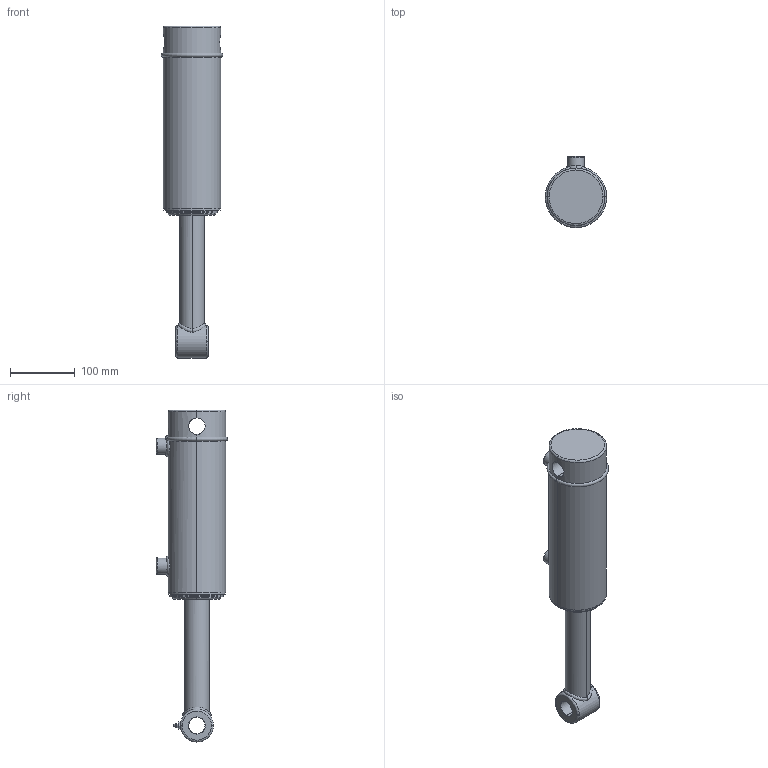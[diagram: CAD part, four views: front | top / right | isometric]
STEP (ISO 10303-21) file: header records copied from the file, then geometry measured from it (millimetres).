
FILE_DESCRIPTION (( 'STEP AP203' ), '1' );
FILE_NAME ('SB-C3001550x152 (6) extended.STEP', '2014-11-19T03:19:24', ( '' ), ( '' ), 'SwSTEP 2.0', 'SolidWorks 2014', '' );
FILE_SCHEMA (( 'CONFIG_CONTROL_DESIGN' ));
Length unit declared in the file: millimetre
Products named in the file (7): 3 inch circlip; SB-C3001550x152 (6) body; 6 SPARE; 18 NPT GREASE NIPPLE; SPARE 6; SB-C3001550x152 (6) extended; SB-C300150x152 (6) BODY
Assembly tree (6 placements, depth 3):
  SB-C3001550x152 (6) extended
    SB-C3001550x152 (6) body
      SB-C300150x152 (6) BODY
      3 inch circlip
    SPARE 6
      6 SPARE
      18 NPT GREASE NIPPLE
Bounding box: 94.9 x 109.9 x 512.4 mm (x, y, z)
Volume: 1832631.4 mm3; surface area: 184569.8 mm2
Topology: 4 solids, 4 shells, 133 faces, 306 edges, 190 vertices
Faces by surface type: cylinder 51, plane 29, cone 22, bspline 18, torus 11, sphere 2
Entity records: 10452 total; most frequent: CARTESIAN_POINT 6772, DIRECTION 638, ORIENTED_EDGE 604, EDGE_CURVE 302, AXIS2_PLACEMENT_3D 270, VERTEX_POINT 190, EDGE_LOOP 158, CIRCLE 144
